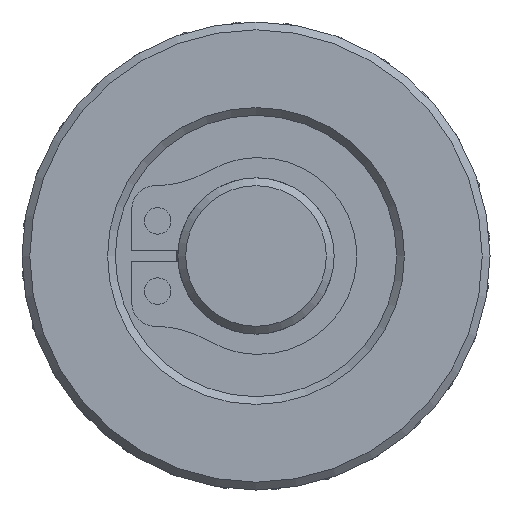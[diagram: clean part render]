
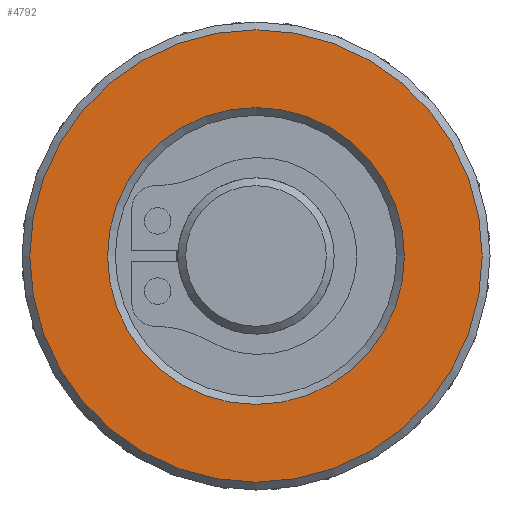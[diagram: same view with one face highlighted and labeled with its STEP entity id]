
A CAD part, front view. The second image highlights one B-rep face of the part: STEP entity #4792.
In plain terms, the highlighted planar face has unit normal (0, -1, 0).
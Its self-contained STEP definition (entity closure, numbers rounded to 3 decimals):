
#324=FACE_BOUND('',#1263,.T.);
#325=FACE_BOUND('',#1264,.T.);
#403=PLANE('',#5325);
#1263=EDGE_LOOP('',(#3959));
#1264=EDGE_LOOP('',(#3960));
#1581=CIRCLE('',#5324,14.475);
#1582=CIRCLE('',#5326,9.5);
#2310=VERTEX_POINT('',#9625);
#2311=VERTEX_POINT('',#9628);
#2875=EDGE_CURVE('',#2310,#2310,#1581,.T.);
#2876=EDGE_CURVE('',#2311,#2311,#1582,.T.);
#3959=ORIENTED_EDGE('',*,*,#2876,.F.);
#3960=ORIENTED_EDGE('',*,*,#2875,.F.);
#4792=ADVANCED_FACE('',(#324,#325),#403,.T.);
#5324=AXIS2_PLACEMENT_3D('',#9626,#6517,#6518);
#5325=AXIS2_PLACEMENT_3D('',#9627,#6519,#6520);
#5326=AXIS2_PLACEMENT_3D('',#9629,#6521,#6522);
#6517=DIRECTION('center_axis',(0.,1.,0.));
#6518=DIRECTION('ref_axis',(-1.,0.,0.));
#6519=DIRECTION('center_axis',(0.,-1.,0.));
#6520=DIRECTION('ref_axis',(0.,0.,-1.));
#6521=DIRECTION('center_axis',(0.,-1.,0.));
#6522=DIRECTION('ref_axis',(-1.,0.,0.));
#9625=CARTESIAN_POINT('',(14.475,-47.,0.));
#9626=CARTESIAN_POINT('Origin',(0.,-47.,0.));
#9627=CARTESIAN_POINT('Origin',(11.988,-47.,0.));
#9628=CARTESIAN_POINT('',(9.5,-47.,0.));
#9629=CARTESIAN_POINT('Origin',(0.,-47.,0.));
